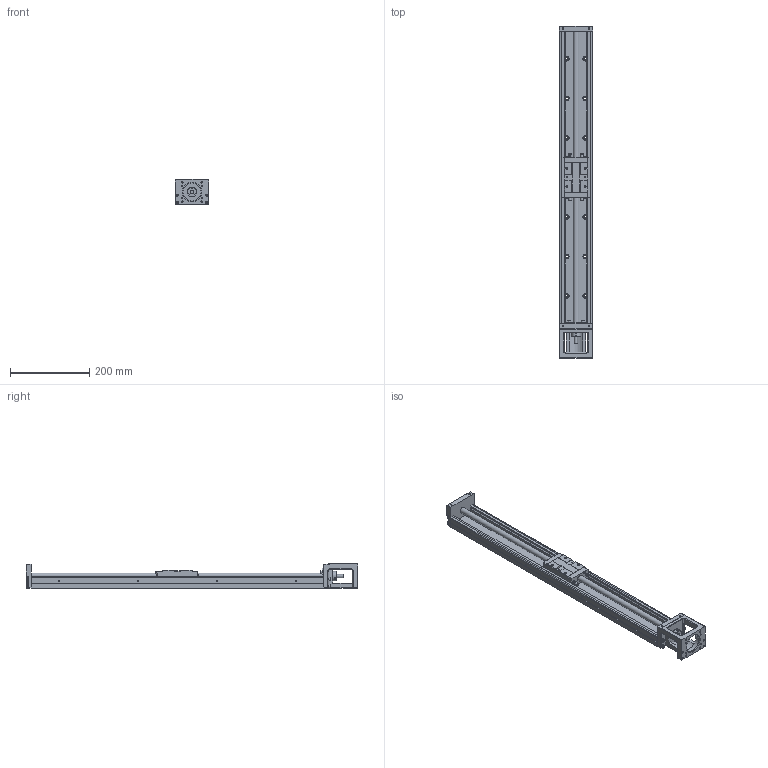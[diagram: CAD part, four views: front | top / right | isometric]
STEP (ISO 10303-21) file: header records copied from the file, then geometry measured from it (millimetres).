
FILE_DESCRIPTION(/* description */ (''),/* implementation_level */ '2;1');
FILE_NAME(/* name */ 'FKL80E740 05(10.16)C7.stp',/* time_stamp */ '2018-12-26T09:46:32+08:00',/* author */ (''),/* organization */ (''),/* preprocessor_version */ 'ST-DEVELOPER v16',/* originating_system */ 'SIEMENS PLM Software NX 10.0',/* authorisation */ '');
FILE_SCHEMA (('AUTOMOTIVE_DESIGN { 1 0 10303 214 3 1 1 1 }'));
Length unit declared in the file: millimetre
Products named in the file (3): 滑块.KK86-A1; 轨道.KK86-740; FKL80E740 05(10.16)C7
Assembly tree (2 placements, depth 2):
  FKL80E740 05(10.16)C7
    轨道.KK86-740
    滑块.KK86-A1
Bounding box: 86 x 840 x 64 mm (x, y, z)
Volume: 1495537.2 mm3; surface area: 327011.5 mm2
Topology: 2 solids, 2 shells, 526 faces, 1347 edges, 884 vertices
Faces by surface type: plane 305, cylinder 175, torus 20, cone 17, sphere 9
Full cylindrical faces by diameter (mm): 2.05 x8, 2.15 x2, 3.3 x9, 4.2 x4, 4.5 x4, 5 x4, 5.5 x4, 6.5 x2, 6.6 x14, 7.5 x8, 8 x5, 8.5 x8, 11 x14, 15 x2, 19 x1, 46 x1, 50 x1
Entity records: 15220 total; most frequent: CARTESIAN_POINT 2671, DIRECTION 2571, ORIENTED_EDGE 2294, EDGE_CURVE 1147, AXIS2_PLACEMENT_3D 922, VERTEX_POINT 801, EDGE_LOOP 748, LINE 727
